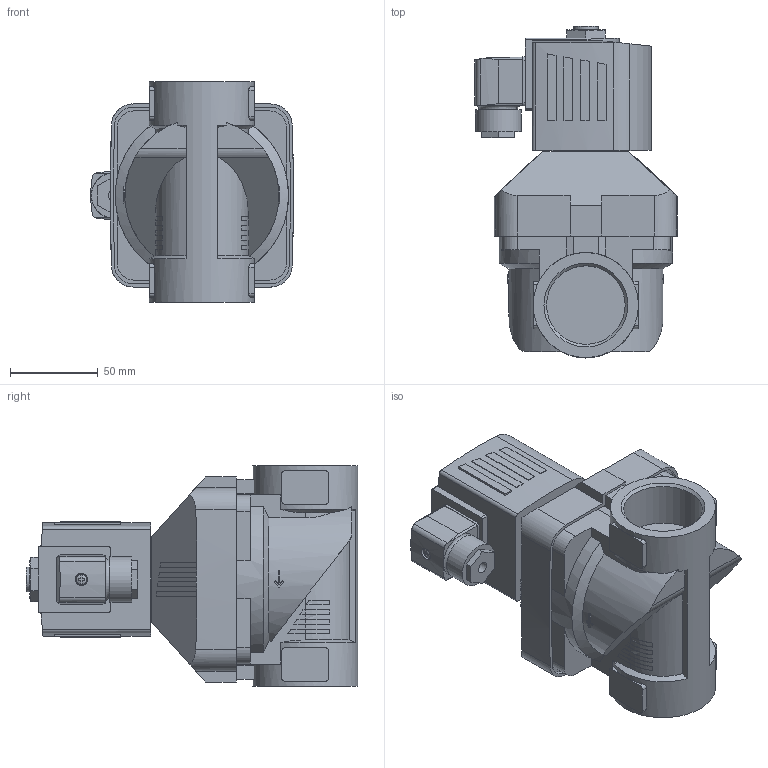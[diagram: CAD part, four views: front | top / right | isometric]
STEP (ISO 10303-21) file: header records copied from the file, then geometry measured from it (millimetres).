
FILE_DESCRIPTION( ( 'STEP AP214' ), '1' );
FILE_NAME( 'p:/temp/worker_3/temp/app_41_02018103115551284237999192d056f_000000_00_00_000000/format_0/6213-227555-2_2-Way-Solenoid-Valve_for_fluids.stp', '2018-10-31T14:55:14', ( '' ), ( '' ), ' ', 'PARTsolutions', ' ' );
FILE_SCHEMA( ( 'AUTOMOTIVE_DESIGN { 1 0 10303 214 1 1 1 1 }' ) );
Length unit declared in the file: millimetre
Products named in the file (4): 6213-227555-2/2-Way-Solenoid-Valve for fluids; HI_AC10ex-65SG=lGSD_MB02Plan-Coil; _6213-40U5-2/2-Wege-Magnetventil-feur-Fluessigkeiten-und-Gase; HI_6213-40G1_1/2VA-Gehaeuse-
Assembly tree (3 placements, depth 2):
  6213-227555-2/2-Way-Solenoid-Valve for fluids
    HI_AC10ex-65SG=lGSD_MB02Plan-Coil
    _6213-40U5-2/2-Wege-Magnetventil-feur-Fluessigkeiten-und-Gase
    HI_6213-40G1_1/2VA-Gehaeuse-
Bounding box: 115.75 x 189.35 x 126 mm (x, y, z)
Volume: 1131535.7 mm3; surface area: 119153.4 mm2
Topology: 3 solids, 4 shells, 411 faces, 1098 edges, 723 vertices
Faces by surface type: plane 288, cylinder 103, cone 17, sphere 2, torus 1
Full cylindrical faces by diameter (mm): 2.013 x1, 6 x1, 6.7 x1, 7 x1, 14 x1, 22 x1, 26 x1, 30.3 x1, 44.845 x2, 60 x1
Entity records: 16512 total; most frequent: CARTESIAN_POINT 2891, ORIENTED_EDGE 2146, DIRECTION 2113, EDGE_CURVE 1073, VERTEX_POINT 716, AXIS2_PLACEMENT_3D 709, LINE 695, VECTOR 695
